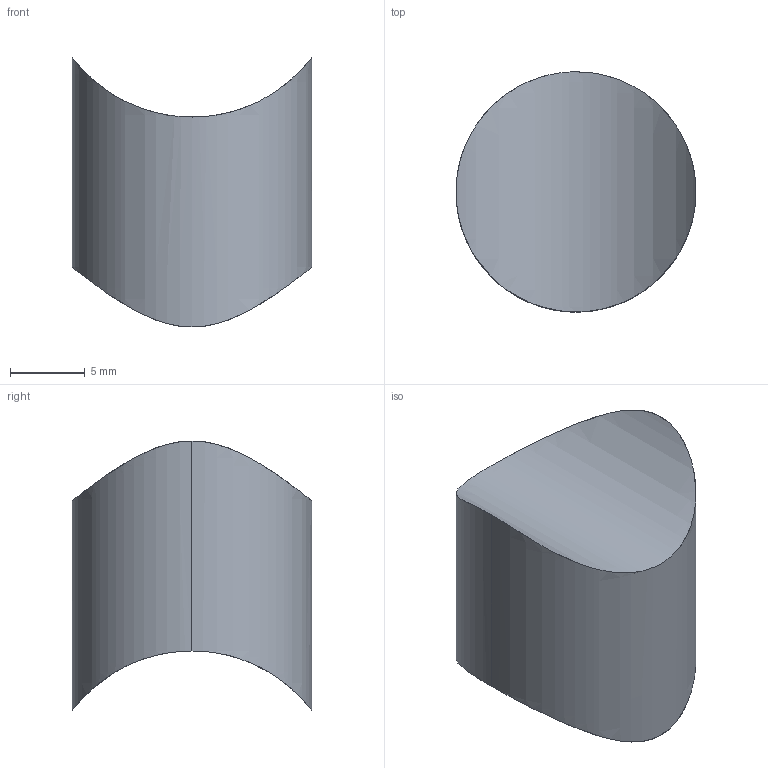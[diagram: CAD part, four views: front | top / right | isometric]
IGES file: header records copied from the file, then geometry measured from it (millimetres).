
Start section: SolidWorks IGES file using analytic representation for surfaces
Global section: file name: C:\Users\Centika\Documents\Rakumba Internship\Solidworks Lightweight\Cilon_Rail_overlap_connector.IGS; native system: SolidWorks 2017; preprocessor: SolidWorks 2017; author: Centika; date: 181204.140814; units: millimetre
Bounding box: 16 x 16 x 18 mm (x, y, z)
Surface area: 1137.5 mm2 (no closed solid volume)
Topology: 0 solids, 0 shells, 4 faces, 186 edges, 186 vertices
Faces by surface type: revolution 4
